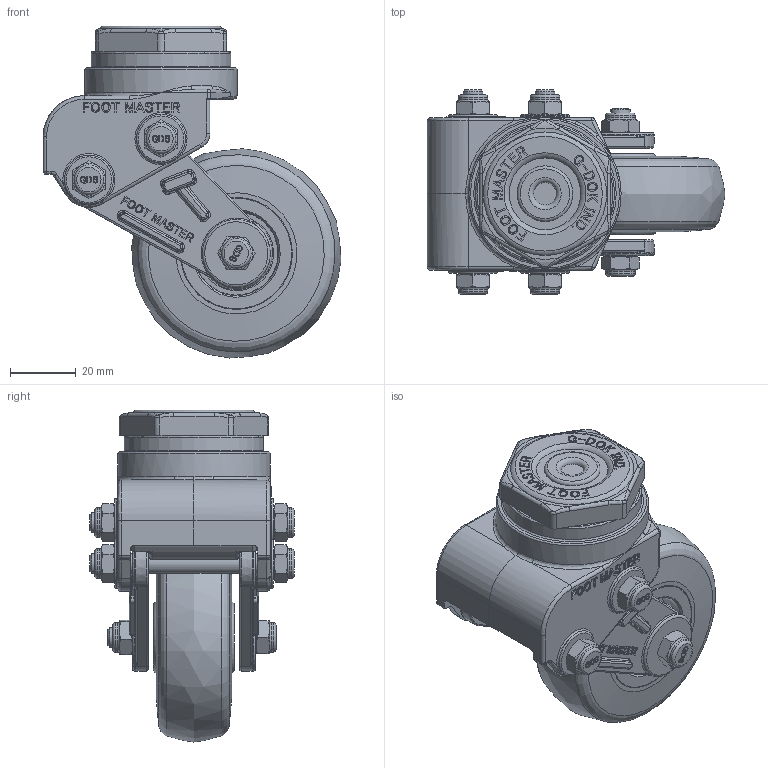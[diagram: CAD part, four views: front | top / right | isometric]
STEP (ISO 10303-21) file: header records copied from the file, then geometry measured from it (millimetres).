
FILE_DESCRIPTION(/* description */ (''),/* implementation_level */ '2;1');
FILE_NAME(/* name */ 'C:\Users\admin\Desktop\JYS\개발품\상세설계_20220328\홈페이지용 도면\GDSA-65-ASS-EUS-PUS.stp',/* time_stamp */ '2023-03-08T16:02:29+09:00',/* author */ ('admin'),/* organization */ (''),/* preprocessor_version */ 'ST-DEVELOPER v18.1',/* originating_system */ 'Autodesk Inventor 2021',/* authorisation */ '');
FILE_SCHEMA (('AUTOMOTIVE_DESIGN { 1 0 10303 214 3 1 1 }'));
Length unit declared in the file: millimetre
Products named in the file (1): GDS-65-ASS-AGV,AMR_Shrinkwrap_1
Bounding box: 90.94 x 62.3 x 101.34 mm (x, y, z)
Volume: 141521.9 mm3; surface area: 41497.8 mm2
Topology: 1 solids, 1 shells, 1959 faces, 5144 edges, 3303 vertices
Faces by surface type: plane 774, bspline 660, cylinder 242, cone 150, torus 117, sphere 16
Full cylindrical faces by diameter (mm): 6 x5, 8.8 x3, 9 x6, 17.216 x2, 18 x1, 20 x2, 22 x2, 22.784 x2, 30 x1, 42.5 x1, 46.5 x1
Entity records: 67784 total; most frequent: CARTESIAN_POINT 21734, ORIENTED_EDGE 10264, DIRECTION 7297, EDGE_CURVE 5132, VERTEX_POINT 3303, LINE 2503, VECTOR 2503, AXIS2_PLACEMENT_3D 2397
